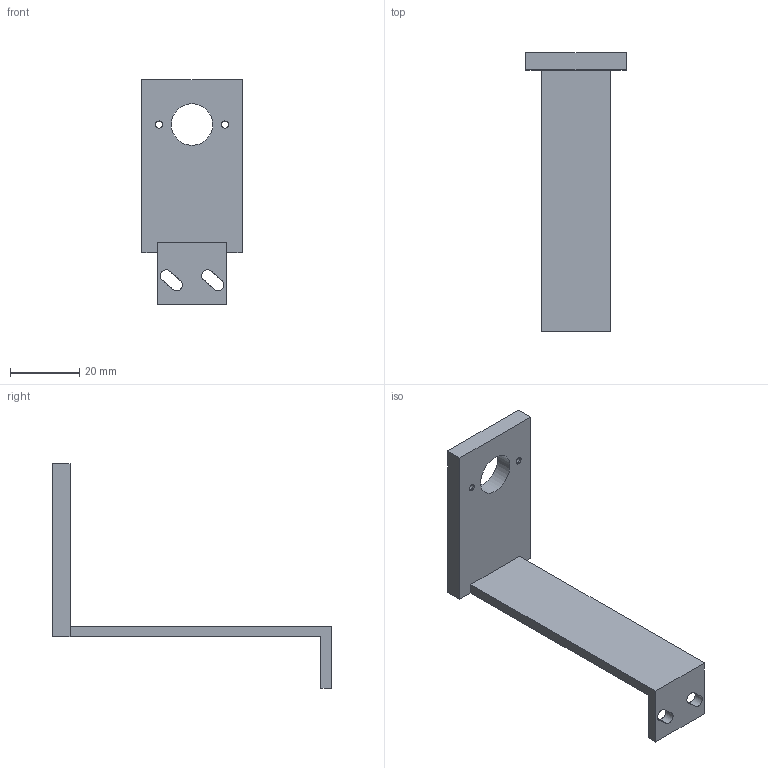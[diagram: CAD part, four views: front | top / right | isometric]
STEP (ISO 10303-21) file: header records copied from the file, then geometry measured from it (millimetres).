
FILE_DESCRIPTION(('Open CASCADE Model'),'2;1');
FILE_NAME('Open CASCADE Shape Model','2026-10-18T22:58:45',('Author'),( 'Open CASCADE'),'Open CASCADE STEP processor 7.9','Open CASCADE 7.9' ,'Unknown');
FILE_SCHEMA(('AUTOMOTIVE_DESIGN { 1 0 10303 214 1 1 1 1 }'));
Length unit declared in the file: millimetre
Products named in the file (1): Open CASCADE STEP translator 7.9 39
Bounding box: 29 x 80.5 x 65 mm (x, y, z)
Volume: 11946.6 mm3; surface area: 7889.4 mm2
Topology: 1 solids, 1 shells, 35 faces, 97 edges, 64 vertices
Faces by surface type: cylinder 23, plane 12
Full cylindrical faces by diameter (mm): 2.05 x4, 12 x1
Entity records: 2410 total; most frequent: CARTESIAN_POINT 447, DIRECTION 371, ORIENTED_EDGE 194, PCURVE 194, DEFINITIONAL_REPRESENTATION 194, LINE 173, VECTOR 173, EDGE_CURVE 97
